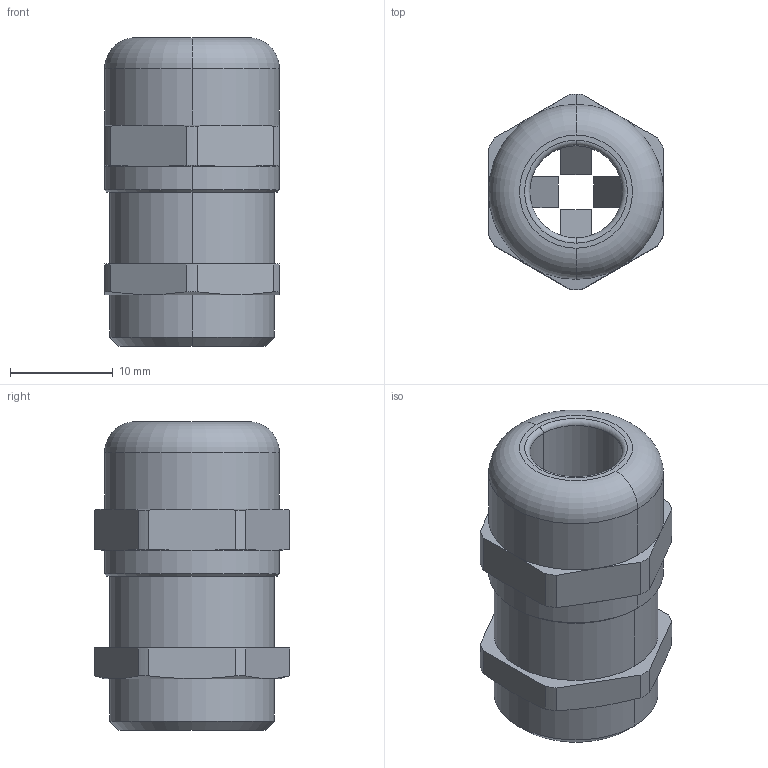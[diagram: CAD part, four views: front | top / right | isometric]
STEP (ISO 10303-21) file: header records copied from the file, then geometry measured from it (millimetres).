
FILE_DESCRIPTION (( 'STEP AP203' ), '1' );
FILE_NAME ('50.616 M-EMVD.STEP', '2006-04-10T12:42:52', ( ' ' ), ( '' ), 'SwSTEP 2.0', 'SolidWorks 2005278', '' );
FILE_SCHEMA (( 'CONFIG_CONTROL_DESIGN' ));
Length unit declared in the file: millimetre
Products named in the file (1): 50.616 M-EMVD
Bounding box: 17 x 19 x 30 mm (x, y, z)
Volume: 4411.9 mm3; surface area: 3066.5 mm2
Topology: 1 solids, 1 shells, 150 faces, 384 edges, 248 vertices
Faces by surface type: plane 84, cylinder 42, cone 20, torus 4
Entity records: 4651 total; most frequent: CARTESIAN_POINT 885, DIRECTION 768, ORIENTED_EDGE 768, EDGE_CURVE 384, AXIS2_PLACEMENT_3D 263, VERTEX_POINT 248, LINE 242, VECTOR 242
